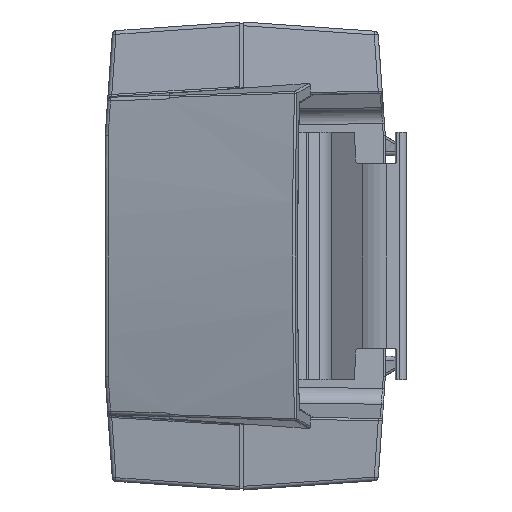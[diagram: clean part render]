
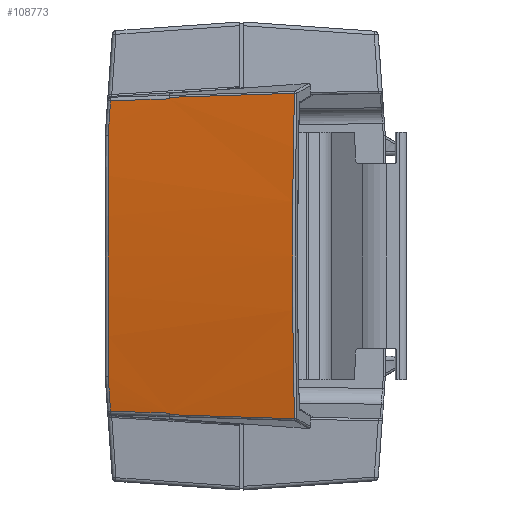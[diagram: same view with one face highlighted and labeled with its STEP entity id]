
A CAD part, left-side view. The second image highlights one B-rep face of the part: STEP entity #108773.
In plain terms, the highlighted conical face has half-angle 15 degrees and reference radius 430.147 mm.
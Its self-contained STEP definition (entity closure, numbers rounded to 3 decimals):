
#14141=CARTESIAN_POINT('',(204.5,33.259,0.));
#14142=DIRECTION('',(0.,-1.,0.));
#14143=DIRECTION('',(-0.997,0.,0.071));
#14144=AXIS2_PLACEMENT_3D('',#14141,#14142,#14143);
#14146=CARTESIAN_POINT('',(204.5,33.259,0.));
#14147=DIRECTION('',(0.,-1.,0.));
#14148=DIRECTION('',(-1.,0.,0.));
#14149=AXIS2_PLACEMENT_3D('',#14146,#14147,#14148);
#14151=CARTESIAN_POINT('',(-218.346,33.259,
-30.039));
#14175=CARTESIAN_POINT('',(-221.696,18.,
-39.257));
#14176=CARTESIAN_POINT('',(-221.263,19.628,
-39.203));
#14177=CARTESIAN_POINT('',(-220.397,22.883,
-39.095));
#14178=CARTESIAN_POINT('',(-219.098,27.766,
-38.932));
#14179=CARTESIAN_POINT('',(-218.232,31.021,
-38.824));
#14180=CARTESIAN_POINT('',(-217.799,32.649,
-38.77));
#14182=CARTESIAN_POINT('',(206.702,34.805,
-7.936));
#14183=DIRECTION('',(0.,0.998,-0.07));
#14184=DIRECTION('',(-0.997,-0.005,-0.072));
#14185=AXIS2_PLACEMENT_3D('',#14182,#14183,#14184);
#14187=CARTESIAN_POINT('',(206.702,34.805,7.936));
#14188=DIRECTION('',(0.,0.998,0.07));
#14189=DIRECTION('',(-0.999,-0.004,0.052));
#14190=AXIS2_PLACEMENT_3D('',#14187,#14188,#14189);
#14192=CARTESIAN_POINT('',(-217.799,32.649,
38.77));
#14193=CARTESIAN_POINT('',(-218.232,31.021,
38.824));
#14194=CARTESIAN_POINT('',(-219.098,27.766,
38.932));
#14195=CARTESIAN_POINT('',(-220.397,22.883,
39.095));
#14196=CARTESIAN_POINT('',(-221.263,19.628,
39.203));
#14197=CARTESIAN_POINT('',(-221.696,18.,
39.257));
#14199=CARTESIAN_POINT('',(-221.66,18.,
39.646));
#14200=CARTESIAN_POINT('',(-222.585,14.524,
39.759));
#14201=CARTESIAN_POINT('',(-224.435,7.571,
39.985));
#14202=CARTESIAN_POINT('',(-227.21,-2.858,
40.323));
#14203=CARTESIAN_POINT('',(-229.06,-9.811,
40.549));
#14204=CARTESIAN_POINT('',(-229.985,-13.287,
40.661));
#14206=CARTESIAN_POINT('',(204.566,-129.725,
0.));
#14207=DIRECTION('',(-0.259,-0.966,0.));
#14208=DIRECTION('',(-0.962,0.258,0.09));
#14209=AXIS2_PLACEMENT_3D('',#14206,#14207,#14208);
#14211=CARTESIAN_POINT('',(204.566,-129.725,
0.));
#14212=DIRECTION('',(-0.259,-0.966,0.));
#14213=DIRECTION('',(-0.966,0.259,0.));
#14214=AXIS2_PLACEMENT_3D('',#14211,#14212,#14213);
#14216=CARTESIAN_POINT('',(-229.985,-13.287,
-40.661));
#14217=CARTESIAN_POINT('',(-229.06,-9.811,
-40.549));
#14218=CARTESIAN_POINT('',(-227.21,-2.858,
-40.323));
#14219=CARTESIAN_POINT('',(-224.435,7.571,
-39.985));
#14220=CARTESIAN_POINT('',(-222.585,14.524,
-39.759));
#14221=CARTESIAN_POINT('',(-221.66,18.,
-39.646));
#14223=CARTESIAN_POINT('',(204.5,18.,0.));
#14224=DIRECTION('',(0.,-1.,0.));
#14225=DIRECTION('',(-0.996,0.,-0.092));
#14226=AXIS2_PLACEMENT_3D('',#14223,#14224,#14225);
#14447=CARTESIAN_POINT('',(204.5,18.,0.));
#14448=DIRECTION('',(0.,-1.,0.));
#14449=DIRECTION('',(-0.996,0.,0.093));
#14450=AXIS2_PLACEMENT_3D('',#14447,#14448,#14449);
#80904=CARTESIAN_POINT('',(-217.799,32.649,
-38.77));
#80905=VERTEX_POINT('',#80904);
#80906=VERTEX_POINT('',#14151);
#80907=CARTESIAN_POINT('',(-218.345,33.259,
30.043));
#80908=CARTESIAN_POINT('',(-219.411,33.259,
0.));
#80909=VERTEX_POINT('',#80907);
#80910=VERTEX_POINT('',#80908);
#80913=CARTESIAN_POINT('',(-221.696,18.,-39.257));
#80914=CARTESIAN_POINT('',(-221.66,18.,-39.646));
#80915=VERTEX_POINT('',#80913);
#80916=VERTEX_POINT('',#80914);
#80917=CARTESIAN_POINT('',(-217.799,32.649,
38.77));
#80918=VERTEX_POINT('',#80917);
#80919=VERTEX_POINT('',#14197);
#80920=CARTESIAN_POINT('',(-221.66,18.,39.646));
#80921=VERTEX_POINT('',#80920);
#80922=VERTEX_POINT('',#14204);
#80923=CARTESIAN_POINT('',(-231.756,-12.813,
0.));
#80924=VERTEX_POINT('',#80923);
#80925=CARTESIAN_POINT('',(-229.985,-13.287,
-40.661));
#80926=VERTEX_POINT('',#80925);
#108745=CARTESIAN_POINT('',(204.5,9.986,0.));
#108746=DIRECTION('',(0.,-1.,0.));
#108747=DIRECTION('',(-1.,0.,0.));
#108748=AXIS2_PLACEMENT_3D('',#108745,#108746,#108747);
#108749=CONICAL_SURFACE('',#108748,430.147,15.);
#108751=ORIENTED_EDGE('',*,*,#108750,.F.);
#108753=ORIENTED_EDGE('',*,*,#108752,.T.);
#108754=ORIENTED_EDGE('',*,*,#108722,.T.);
#108755=ORIENTED_EDGE('',*,*,#108735,.F.);
#108756=ORIENTED_EDGE('',*,*,#108733,.F.);
#108758=ORIENTED_EDGE('',*,*,#108757,.T.);
#108760=ORIENTED_EDGE('',*,*,#108759,.T.);
#108762=ORIENTED_EDGE('',*,*,#108761,.F.);
#108764=ORIENTED_EDGE('',*,*,#108763,.T.);
#108766=ORIENTED_EDGE('',*,*,#108765,.T.);
#108768=ORIENTED_EDGE('',*,*,#108767,.T.);
#108770=ORIENTED_EDGE('',*,*,#108769,.T.);
#108771=EDGE_LOOP('',(#108751,#108753,#108754,#108755,#108756,#108758,#108760,
#108762,#108764,#108766,#108768,#108770));
#108772=FACE_OUTER_BOUND('',#108771,.F.);
#108773=ADVANCED_FACE('',(#108772),#108749,.T.);
#14145=CIRCLE('',#14144,423.911);
#14150=CIRCLE('',#14149,423.911);
#14181=B_SPLINE_CURVE_WITH_KNOTS('',3,(#14175,#14176,#14177,#14178,#14179,
#14180),.UNSPECIFIED.,.F.,.F.,(4,1,1,4),(0.,0.333,
0.667,1.),.UNSPECIFIED.);
#14186=CIRCLE('',#14185,425.625);
#14191=CIRCLE('',#14190,425.625);
#14198=B_SPLINE_CURVE_WITH_KNOTS('',3,(#14192,#14193,#14194,#14195,#14196,
#14197),.UNSPECIFIED.,.F.,.F.,(4,1,1,4),(0.,0.333,
0.667,1.),.UNSPECIFIED.);
#14205=B_SPLINE_CURVE_WITH_KNOTS('',3,(#14199,#14200,#14201,#14202,#14203,
#14204),.UNSPECIFIED.,.F.,.F.,(4,1,1,4),(0.,0.333,
0.667,1.),.UNSPECIFIED.);
#14210=CIRCLE('',#14209,451.715);
#14215=CIRCLE('',#14214,451.715);
#14222=B_SPLINE_CURVE_WITH_KNOTS('',3,(#14216,#14217,#14218,#14219,#14220,
#14221),.UNSPECIFIED.,.F.,.F.,(4,1,1,4),(0.,0.333,
0.667,1.),.UNSPECIFIED.);
#14227=CIRCLE('',#14226,428.);
#14451=CIRCLE('',#14450,428.);
#108722=EDGE_CURVE('',#80905,#80906,#14186,.T.);
#108733=EDGE_CURVE('',#80909,#80910,#14145,.T.);
#108735=EDGE_CURVE('',#80910,#80906,#14150,.T.);
#108750=EDGE_CURVE('',#80915,#80916,#14227,.T.);
#108752=EDGE_CURVE('',#80915,#80905,#14181,.T.);
#108757=EDGE_CURVE('',#80909,#80918,#14191,.T.);
#108759=EDGE_CURVE('',#80918,#80919,#14198,.T.);
#108761=EDGE_CURVE('',#80921,#80919,#14451,.T.);
#108763=EDGE_CURVE('',#80921,#80922,#14205,.T.);
#108765=EDGE_CURVE('',#80922,#80924,#14210,.T.);
#108767=EDGE_CURVE('',#80924,#80926,#14215,.T.);
#108769=EDGE_CURVE('',#80926,#80916,#14222,.T.);
